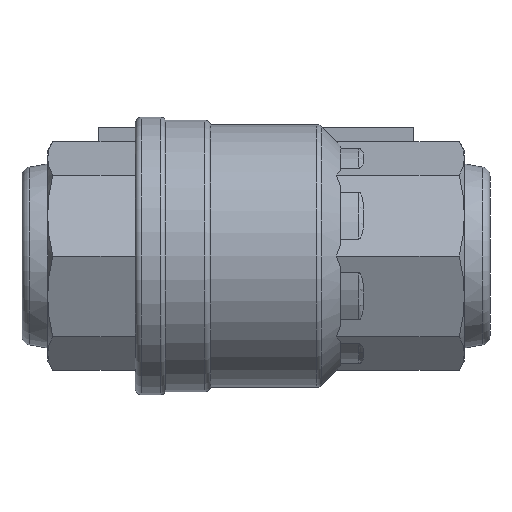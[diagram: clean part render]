
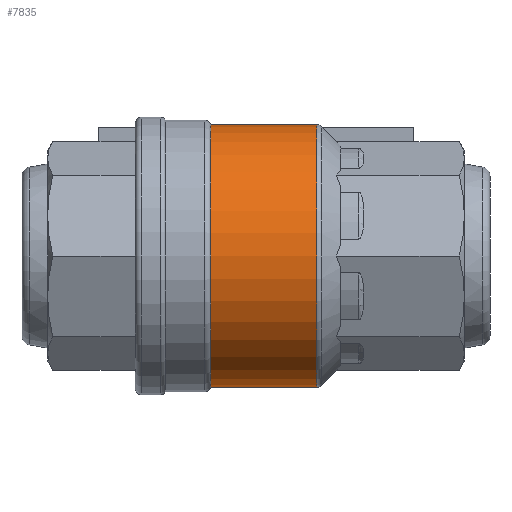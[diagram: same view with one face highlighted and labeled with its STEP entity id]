
A CAD part, front view. The second image highlights one B-rep face of the part: STEP entity #7835.
In plain terms, the highlighted cylindrical face has radius 43.5 mm (diameter 87 mm), a partial arc.
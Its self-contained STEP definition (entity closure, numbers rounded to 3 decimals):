
#2270 = VECTOR ( 'NONE', #10676, 1000. ) ;
#2274 = VECTOR ( 'NONE', #10680, 1000. ) ;
#2369 = CIRCLE ( 'NONE', #2371, 43.5 ) ;
#2370 = CIRCLE ( 'NONE', #2374, 43.5 ) ;
#2371 = AXIS2_PLACEMENT_3D ( 'NONE', #11484, #11485, #11486 ) ;
#2374 = AXIS2_PLACEMENT_3D ( 'NONE', #11487, #11488, #11489 ) ;
#3916 = EDGE_CURVE ( 'NONE', #10579, #10516, #10672, .T. ) ;
#3917 = EDGE_CURVE ( 'NONE', #10546, #10512, #10677, .T. ) ;
#4043 = EDGE_CURVE ( 'NONE', #10579, #10546, #2369, .T. ) ;
#4044 = EDGE_CURVE ( 'NONE', #10512, #10516, #2370, .T. ) ;
#6936 = ORIENTED_EDGE ( 'NONE', *, *, #4044, .T. ) ;
#6937 = ORIENTED_EDGE ( 'NONE', *, *, #3917, .T. ) ;
#6938 = ORIENTED_EDGE ( 'NONE', *, *, #4043, .T. ) ;
#6939 = ORIENTED_EDGE ( 'NONE', *, *, #3916, .F. ) ;
#7835 = ADVANCED_FACE ( 'NONE', ( #9061 ), #9060, .T. ) ;
#9055 = CARTESIAN_POINT ( 'NONE',  ( -15., 0., 0. ) ) ;
#9057 = DIRECTION ( 'NONE',  ( 1., 0., 0. ) ) ;
#9060 = CYLINDRICAL_SURFACE ( 'NONE', #11982, 43.5 ) ;
#9061 = FACE_OUTER_BOUND ( 'NONE', #12326, .T. ) ;
#9063 = DIRECTION ( 'NONE',  ( 0., 0., -1. ) ) ;
#9733 = CARTESIAN_POINT ( 'NONE',  ( 20.172, 0., -43.5 ) ) ;
#9737 = CARTESIAN_POINT ( 'NONE',  ( 20.172, 0., 43.5 ) ) ;
#9767 = CARTESIAN_POINT ( 'NONE',  ( -15., 0., -43.5 ) ) ;
#9800 = CARTESIAN_POINT ( 'NONE',  ( -15., 0., 43.5 ) ) ;
#10512 = VERTEX_POINT ( 'NONE', #9733 ) ;
#10516 = VERTEX_POINT ( 'NONE', #9737 ) ;
#10546 = VERTEX_POINT ( 'NONE', #9767 ) ;
#10579 = VERTEX_POINT ( 'NONE', #9800 ) ;
#10668 = CARTESIAN_POINT ( 'NONE',  ( -15., 0., 43.5 ) ) ;
#10672 = LINE ( 'NONE', #10668, #2270 ) ;
#10676 = DIRECTION ( 'NONE',  ( 1., 0., 0. ) ) ;
#10677 = LINE ( 'NONE', #10679, #2274 ) ;
#10679 = CARTESIAN_POINT ( 'NONE',  ( -15., 0., -43.5 ) ) ;
#10680 = DIRECTION ( 'NONE',  ( 1., 0., 0. ) ) ;
#11484 = CARTESIAN_POINT ( 'NONE',  ( -15., 0., 0. ) ) ;
#11485 = DIRECTION ( 'NONE',  ( 1., 0., 0. ) ) ;
#11486 = DIRECTION ( 'NONE',  ( 0., 0., 1. ) ) ;
#11487 = CARTESIAN_POINT ( 'NONE',  ( 20.172, 0., 0. ) ) ;
#11488 = DIRECTION ( 'NONE',  ( -1., 0., 0. ) ) ;
#11489 = DIRECTION ( 'NONE',  ( 0., 0., -1. ) ) ;
#11982 = AXIS2_PLACEMENT_3D ( 'NONE', #9055, #9057, #9063 ) ;
#12326 = EDGE_LOOP ( 'NONE', ( #6939, #6938, #6937, #6936 ) ) ;
